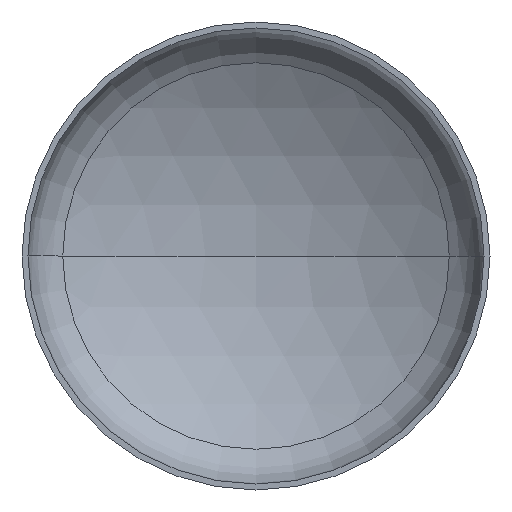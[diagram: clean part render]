
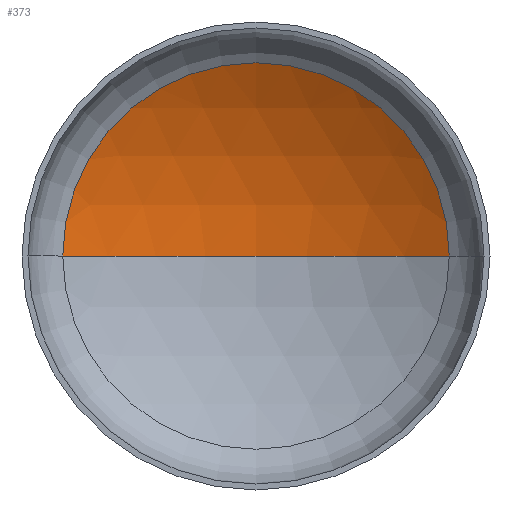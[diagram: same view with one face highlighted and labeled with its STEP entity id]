
A CAD part, front view. The second image highlights one B-rep face of the part: STEP entity #373.
In plain terms, the highlighted spherical face has radius 4400 mm.
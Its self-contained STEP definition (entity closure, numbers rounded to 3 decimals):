
#1 = DIRECTION ( 'NONE',  ( -1., 0., 0. ) ) ;
#3 = EDGE_CURVE ( 'NONE', #17, #9, #376, .T. ) ;
#9 = VERTEX_POINT ( 'NONE', #11 ) ;
#11 = CARTESIAN_POINT ( 'NONE',  ( -2271.167, 843.729, 0. ) ) ;
#17 = VERTEX_POINT ( 'NONE', #87 ) ;
#26 = ORIENTED_EDGE ( 'NONE', *, *, #76, .T. ) ;
#29 = EDGE_LOOP ( 'NONE', ( #80, #71, #26 ) ) ;
#56 = EDGE_CURVE ( 'NONE', #17, #350, #245, .T. ) ;
#71 = ORIENTED_EDGE ( 'NONE', *, *, #56, .T. ) ;
#76 = EDGE_CURVE ( 'NONE', #350, #9, #237, .T. ) ;
#80 = ORIENTED_EDGE ( 'NONE', *, *, #3, .F. ) ;
#82 = AXIS2_PLACEMENT_3D ( 'NONE', #312, #301, #1 ) ;
#87 = CARTESIAN_POINT ( 'NONE',  ( 0., 1475.201, 0. ) ) ;
#126 = DIRECTION ( 'NONE',  ( 0., 0., 1. ) ) ;
#144 = FACE_OUTER_BOUND ( 'NONE', #29, .T. ) ;
#149 = DIRECTION ( 'NONE',  ( 1., 0., 0. ) ) ;
#151 = DIRECTION ( 'NONE',  ( 0., -1., 0. ) ) ;
#154 = CARTESIAN_POINT ( 'NONE',  ( 0., 843.729, 0. ) ) ;
#193 = DIRECTION ( 'NONE',  ( -1., 0., 0. ) ) ;
#202 = CARTESIAN_POINT ( 'NONE',  ( 0., -2924.799, 0. ) ) ;
#207 = DIRECTION ( 'NONE',  ( 0., 0., -1. ) ) ;
#218 = CARTESIAN_POINT ( 'NONE',  ( 0., -2924.799, 0. ) ) ;
#237 = CIRCLE ( 'NONE', #333, 2271.167 ) ;
#245 = CIRCLE ( 'NONE', #348, 4400. ) ;
#254 = DIRECTION ( 'NONE',  ( 1., 0., 0. ) ) ;
#261 = CARTESIAN_POINT ( 'NONE',  ( 2271.167, 843.729, 0. ) ) ;
#301 = DIRECTION ( 'NONE',  ( 0., 0., -1. ) ) ;
#304 = AXIS2_PLACEMENT_3D ( 'NONE', #202, #126, #254 ) ;
#312 = CARTESIAN_POINT ( 'NONE',  ( 0., -2924.799, 0. ) ) ;
#327 = SPHERICAL_SURFACE ( 'NONE', #82, 4400. ) ;
#333 = AXIS2_PLACEMENT_3D ( 'NONE', #154, #151, #149 ) ;
#348 = AXIS2_PLACEMENT_3D ( 'NONE', #218, #207, #193 ) ;
#350 = VERTEX_POINT ( 'NONE', #261 ) ;
#373 = ADVANCED_FACE ( 'NONE', ( #144 ), #327, .F. ) ;
#376 = CIRCLE ( 'NONE', #304, 4400. ) ;
